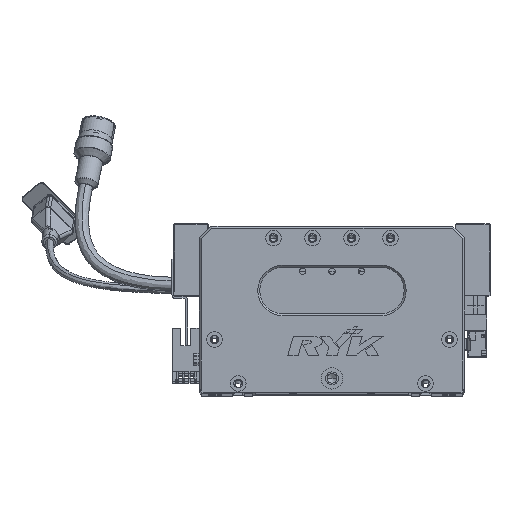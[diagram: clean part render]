
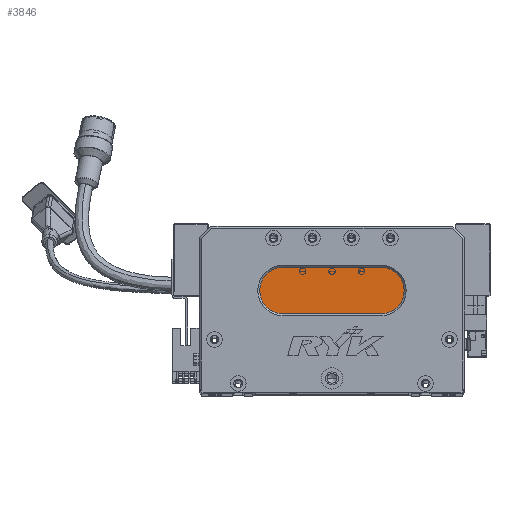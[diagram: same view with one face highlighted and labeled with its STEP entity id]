
A CAD part, top view. The second image highlights one B-rep face of the part: STEP entity #3846.
In plain terms, the highlighted planar face has unit normal (0, 0, 1) as drawn and (0, 0, -1) by its records, which use the part's own axes.
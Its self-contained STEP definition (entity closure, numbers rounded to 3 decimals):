
#149 = AXIS2_PLACEMENT_3D ( 'NONE', #31151, #69412, #62621 ) ;
#1161 = VERTEX_POINT ( 'NONE', #51198 ) ;
#3297 = DIRECTION ( 'NONE',  ( 0., 0., -1. ) ) ;
#3846 = ADVANCED_FACE ( 'NONE', ( #19258 ), #48197, .T. ) ;
#8611 = CARTESIAN_POINT ( 'NONE',  ( 43., 64., 13. ) ) ;
#9156 = ORIENTED_EDGE ( 'NONE', *, *, #66000, .T. ) ;
#11099 = LINE ( 'NONE', #75152, #29275 ) ;
#11845 = CIRCLE ( 'NONE', #54410, 12. ) ;
#12210 = EDGE_CURVE ( 'NONE', #38807, #67612, #11845, .T. ) ;
#12291 = CARTESIAN_POINT ( 'NONE',  ( 43., 52., 13. ) ) ;
#12761 = EDGE_LOOP ( 'NONE', ( #22174, #9156, #32939, #54522, #33783 ) ) ;
#17648 = CARTESIAN_POINT ( 'NONE',  ( 93., 40., 13. ) ) ;
#18681 = CIRCLE ( 'NONE', #55265, 12. ) ;
#19258 = FACE_OUTER_BOUND ( 'NONE', #12761, .T. ) ;
#21964 = CARTESIAN_POINT ( 'NONE',  ( 93., 52., 13. ) ) ;
#22174 = ORIENTED_EDGE ( 'NONE', *, *, #48729, .T. ) ;
#24926 = DIRECTION ( 'NONE',  ( -1., 0., 0. ) ) ;
#25732 = VERTEX_POINT ( 'NONE', #65875 ) ;
#28674 = DIRECTION ( 'NONE',  ( -1., 0., 0. ) ) ;
#29275 = VECTOR ( 'NONE', #30662, 1000. ) ;
#29700 = CARTESIAN_POINT ( 'NONE',  ( 31., 52., 13. ) ) ;
#30662 = DIRECTION ( 'NONE',  ( 1., 0., 0. ) ) ;
#31151 = CARTESIAN_POINT ( 'NONE',  ( 93., 52., 13. ) ) ;
#32939 = ORIENTED_EDGE ( 'NONE', *, *, #12210, .T. ) ;
#33783 = ORIENTED_EDGE ( 'NONE', *, *, #50651, .T. ) ;
#37519 = LINE ( 'NONE', #17648, #82976 ) ;
#38807 = VERTEX_POINT ( 'NONE', #51155 ) ;
#39653 = CIRCLE ( 'NONE', #149, 12. ) ;
#44457 = DIRECTION ( 'NONE',  ( -1., 0., 0. ) ) ;
#47570 = EDGE_CURVE ( 'NONE', #67612, #77261, #18681, .T. ) ;
#48197 = PLANE ( 'NONE',  #56277 ) ;
#48729 = EDGE_CURVE ( 'NONE', #25732, #1161, #39653, .T. ) ;
#50336 = CARTESIAN_POINT ( 'NONE',  ( 43., 52., 13. ) ) ;
#50651 = EDGE_CURVE ( 'NONE', #77261, #25732, #11099, .T. ) ;
#51155 = CARTESIAN_POINT ( 'NONE',  ( 43., 40., 13. ) ) ;
#51198 = CARTESIAN_POINT ( 'NONE',  ( 93., 40., 13. ) ) ;
#54410 = AXIS2_PLACEMENT_3D ( 'NONE', #12291, #76762, #44457 ) ;
#54522 = ORIENTED_EDGE ( 'NONE', *, *, #47570, .T. ) ;
#55265 = AXIS2_PLACEMENT_3D ( 'NONE', #50336, #69936, #24926 ) ;
#56277 = AXIS2_PLACEMENT_3D ( 'NONE', #21964, #3297, #28674 ) ;
#62621 = DIRECTION ( 'NONE',  ( -1., 0., 0. ) ) ;
#65875 = CARTESIAN_POINT ( 'NONE',  ( 93., 64., 13. ) ) ;
#66000 = EDGE_CURVE ( 'NONE', #1161, #38807, #37519, .T. ) ;
#67612 = VERTEX_POINT ( 'NONE', #29700 ) ;
#69412 = DIRECTION ( 'NONE',  ( 0., 0., -1. ) ) ;
#69936 = DIRECTION ( 'NONE',  ( 0., 0., -1. ) ) ;
#75152 = CARTESIAN_POINT ( 'NONE',  ( 93., 64., 13. ) ) ;
#76762 = DIRECTION ( 'NONE',  ( 0., 0., -1. ) ) ;
#77261 = VERTEX_POINT ( 'NONE', #8611 ) ;
#82643 = DIRECTION ( 'NONE',  ( -1., 0., 0. ) ) ;
#82976 = VECTOR ( 'NONE', #82643, 1000. ) ;
